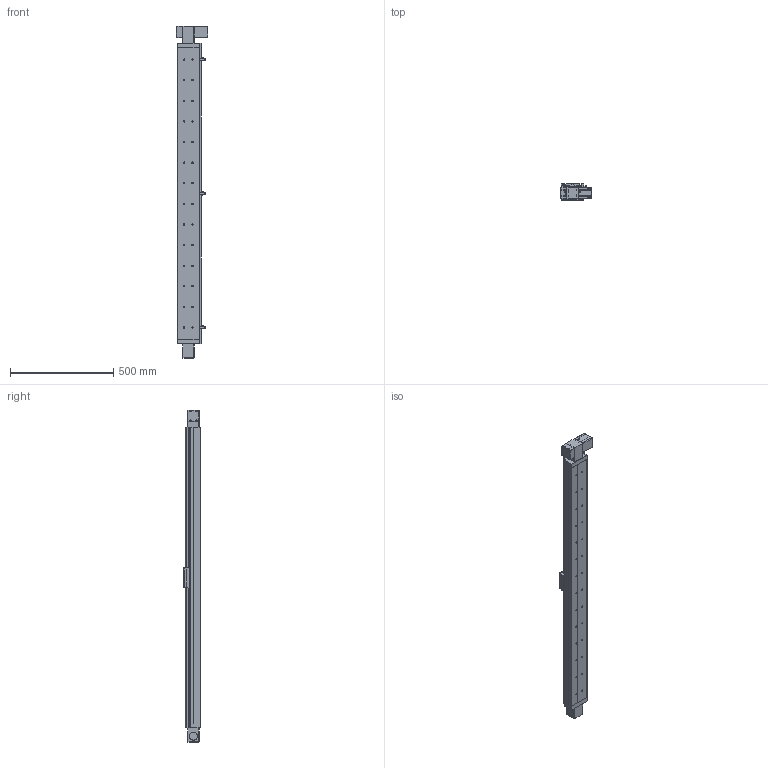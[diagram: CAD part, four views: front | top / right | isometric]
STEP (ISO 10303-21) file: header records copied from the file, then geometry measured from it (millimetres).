
FILE_DESCRIPTION((''),'2;1');
FILE_NAME('E:\uia actuator\UIA actuator 3d- 2015\Belt drive actuator\UIA110BR12(15)DC\UIA110BR12(15)DC-STEP FILE\UIA110BR12(15) stp file 13May16\UIA110BR12(15)DC-1300-M23-P13-C10-S.stp','2016-05-16T09:32:58',('h029'),(''),'Autodesk Inventor 11','Autodesk Inventor 11','');
FILE_SCHEMA(('AUTOMOTIVE_DESIGN { 1 0 10303 214 1 1 1 1 }'));
Length unit declared in the file: millimetre
Products named in the file (11): UIA110BR12(15)DC-1300; UIA110BR12(15)DC-1300-body; UIA110BR12(15)DC-1300-Sensor rail; UIA110B-Carriage; UIA110B- Sensor Flag; UIA110B-Cover; SOH-32C; SOH-32C-3; SOH-32C-1; SOH-32C-2; Motor mount
Assembly tree (10 placements, depth 3):
  UIA110BR12(15)DC-1300
    UIA110BR12(15)DC-1300-body
    UIA110BR12(15)DC-1300-Sensor rail
    UIA110B-Carriage
    UIA110B- Sensor Flag
    UIA110B-Cover
    SOH-32C
      SOH-32C-3
      SOH-32C-1
      SOH-32C-2
    Motor mount
Bounding box: 152 x 81 x 1611 mm (x, y, z)
Volume: 4696225.7 mm3; surface area: 1389656.8 mm2
Topology: 9 solids, 13 shells, 788 faces, 2218 edges, 1416 vertices
Faces by surface type: plane 487, cylinder 211, cone 42, bspline 40, sphere 8
Full cylindrical faces by diameter (mm): 2.459 x4, 3 x2, 3.242 x8, 3.5 x4, 4 x10, 4.5 x4, 4.917 x8, 5 x2, 6.35 x1, 6.5 x28, 7.5 x4, 10 x3, 11 x28, 12 x1, 20 x2, 32 x3, 37 x1, 38.1 x1, 39 x2, 43.5 x1, 46 x2
Entity records: 26698 total; most frequent: CARTESIAN_POINT 7029, DIRECTION 4023, ORIENTED_EDGE 3822, EDGE_CURVE 1911, AXIS2_PLACEMENT_3D 1396, VERTEX_POINT 1312, VECTOR 1231, LINE 1231
